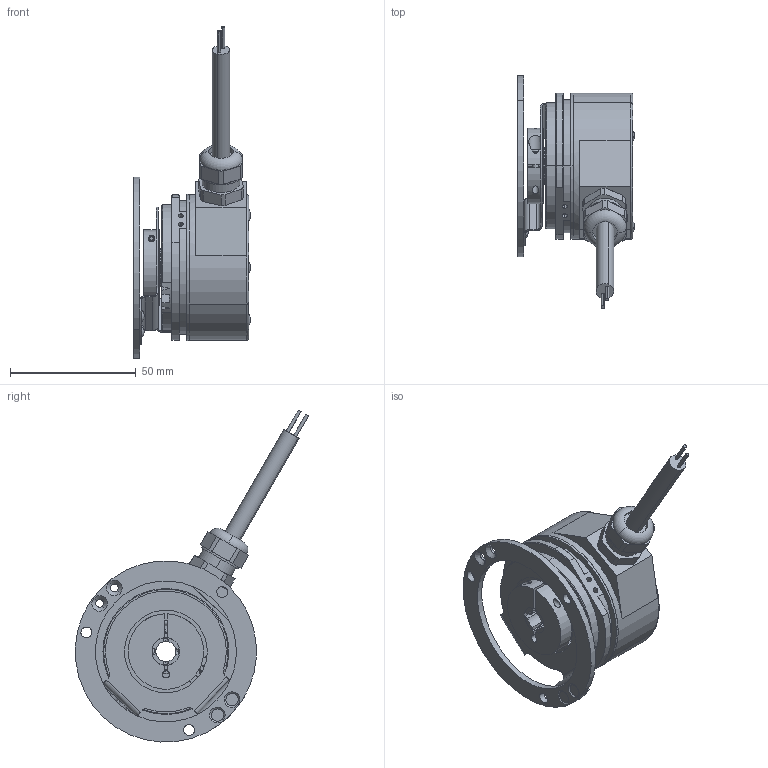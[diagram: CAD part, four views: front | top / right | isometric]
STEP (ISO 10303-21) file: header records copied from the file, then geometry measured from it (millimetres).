
FILE_DESCRIPTION (( 'STEP AP203' ), '1' );
FILE_NAME ('8.5825.33X1.XXXX.STEP', '2012-12-14T15:24:58', ( 'Hodot' ), ( '' ), 'SwSTEP 2.0', 'SolidWorks 2012', '' );
FILE_SCHEMA (( 'CONFIG_CONTROL_DESIGN' ));
Length unit declared in the file: millimetre
Products named in the file (1): 8.5825.33X1.XXXX
Bounding box: 46.38 x 92.62 x 131.84 mm (x, y, z)
Volume: 63352.5 mm3; surface area: 48221 mm2
Topology: 24 solids, 25 shells, 712 faces, 1791 edges, 1117 vertices
Faces by surface type: cylinder 247, plane 247, cone 124, torus 52, sphere 42
Entity records: 22266 total; most frequent: CARTESIAN_POINT 5209, DIRECTION 3755, ORIENTED_EDGE 3366, EDGE_CURVE 1683, AXIS2_PLACEMENT_3D 1499, VERTEX_POINT 1069, EDGE_LOOP 852, CIRCLE 786
